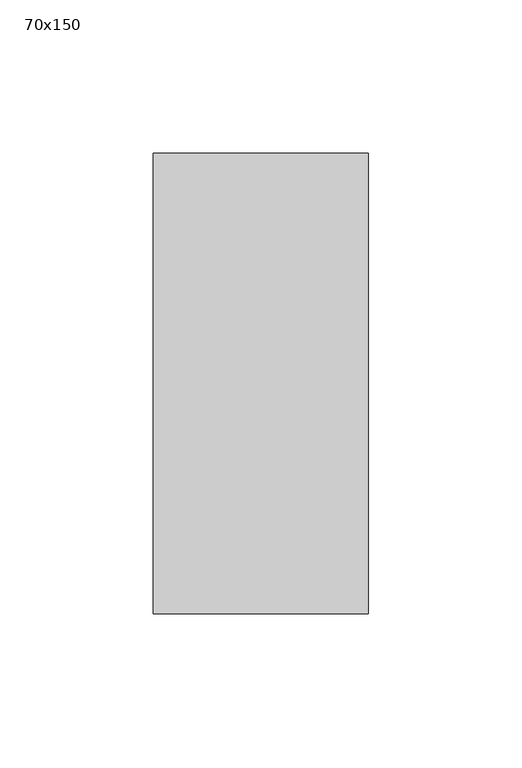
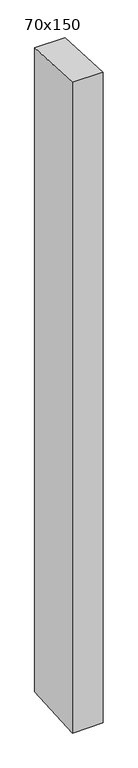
"""IFC4 building model written with IfcOpenShell, lengths in millimetres: member geometry, 長方形のマリオン : 70x150."""

from ifc_helpers import new_model, si_unit, frame, origin, place, context, project, spatial, polyline, outline, extrude, source, transform, mapped, element, save


def member_70x150_fe2709cc(model_context):
    return source(origin(), model_context, "Body", "SweptSolid", [
        extrude(outline(polyline([(-75.0, 3.3039376), (75.0, -3.3039376), (75.0, -1566.2284052), (-75.0, -1575.8951104), (-75.0, 3.3039376)])), frame((-70.0, 0.0, 0.0), z_axis=(1.0, 0.0, 0.0), x_axis=(0.0, 1.0, 0.0)), (0.0, 0.0, 1.0), 70.0),
    ])


if __name__ == "__main__":
    model = new_model("IFC4")
    model_context = context("Model", 3, world=origin())
    ifc_project = project(units=[si_unit("LENGTHUNIT", "METRE", prefix="MILLI")], contexts=[model_context])
    site = spatial("IfcSite", under=ifc_project)
    building = spatial("IfcBuilding", under=site)
    placement = place(None, origin())
    member_70x150_shape = member_70x150_fe2709cc(model_context)
    element("IfcMember", 1, ObjectType="長方形のマリオン : 70x150", at=placement, inside=building, context=model_context, shape_type="MappedRepresentation", body=[
        mapped(member_70x150_shape, transform((0.0, 0.0, 0.0), x_axis=(1.0, 0.0, 0.0), y_axis=(0.0, 1.0, 0.0), z_axis=(0.0, 0.0, 1.0))),
    ])
    save(model, "model.ifc")
